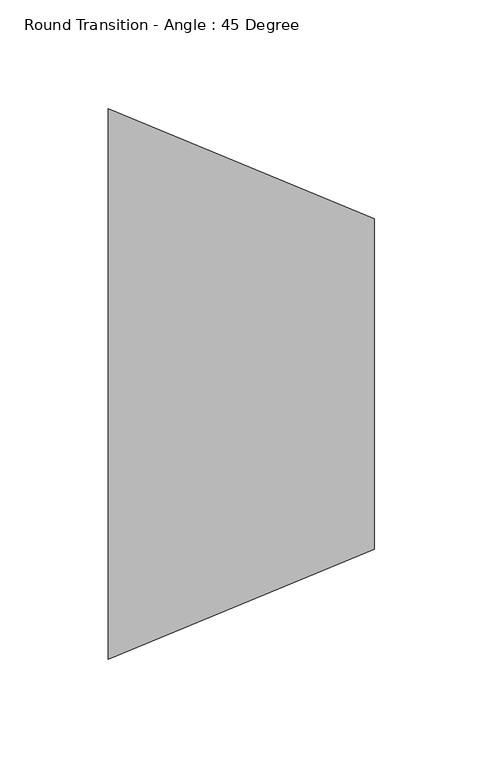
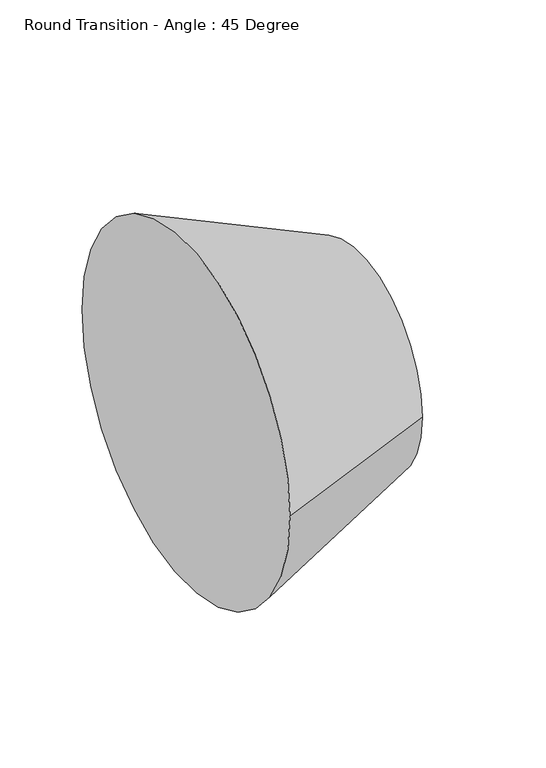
"""IFC4 building model written with IfcOpenShell, lengths in millimetres: duct fitting geometry, Round Transition - Angle : 45 Degree."""

from ifc_helpers import new_model, si_unit, frame, origin, place, context, project, spatial, polyline, circle_curve, source, transform, mapped, element, save
from ifc_brep_helpers import plane_surface, revolved_surface, advanced_brep


def round_transition_angle_45_degree_b52f7b1d(model_context):
    return source(origin(), model_context, "Body", "AdvancedBrep", [
        advanced_brep(
        [(122.642049, -76.2, 0.0), (122.642049, 76.2, 0.0), (0.0, -127.0, 0.0), (0.0, 127.0, 0.0)],
        [
            (0, 1, circle_curve(frame((122.642049, 0.0, 0.0), z_axis=(1.0, 0.0, 0.0), x_axis=(0.0, -1.0, 0.0)), 76.2)),
            (1, 0, circle_curve(frame((122.642049, 0.0, 0.0), z_axis=(1.0, 0.0, 0.0), x_axis=(0.0, 1.0, 0.0)), 76.2)),
            (2, 3, circle_curve(frame((0.0, 0.0, 0.0), z_axis=(-1.0, 0.0, 0.0), x_axis=(0.0, 1.0, 0.0)), 127.0)),
            (3, 2, circle_curve(frame((0.0, 0.0, 0.0), z_axis=(-1.0, 0.0, 0.0), x_axis=(0.0, -1.0, 0.0)), 127.0)),
            (3, 1),
            (0, 2),
        ],
        [
            plane_surface(frame((122.642049, 0.0, 0.0), z_axis=(1.0, 0.0, 0.0), x_axis=(0.0, 0.0, -1.0))),
            plane_surface(frame((0.0, 0.0, 0.0), z_axis=(-1.0, 0.0, 0.0), x_axis=(0.0, 0.0, -1.0))),
            revolved_surface(polyline([(122.64204899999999, -76.19999998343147, 0.0), (0.0, -127.0, 0.0)]), (306.6051224, 0.0, 0.0), (-1.0, 0.0, 0.0)),
            revolved_surface(polyline([(122.64204899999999, 76.19999998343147, 0.0), (0.0, 127.0, 0.0)]), (306.6051224, 0.0, 0.0), (-1.0, 0.0, 0.0)),
        ],
        [
            (0, [[1, 2]]),
            (1, [[3, 4]]),
            (2, [[-4, 5, -1, 6]]),
            (3, [[-3, -6, -2, -5]]),
        ],
    ),
    ])


if __name__ == "__main__":
    model = new_model("IFC4")
    model_context = context("Model", 3, world=origin())
    ifc_project = project(units=[si_unit("LENGTHUNIT", "METRE", prefix="MILLI")], contexts=[model_context])
    site = spatial("IfcSite", under=ifc_project)
    building = spatial("IfcBuilding", under=site)
    placement = place(None, origin())
    round_transition_angle_45_degree_shape = round_transition_angle_45_degree_b52f7b1d(model_context)
    element("IfcDuctFitting", 1, ObjectType="Round Transition - Angle : 45 Degree", at=placement, inside=building, context=model_context, shape_type="MappedRepresentation", body=[
        mapped(round_transition_angle_45_degree_shape, transform((0.0, 0.0, 0.0), x_axis=(1.0, 0.0, 0.0), y_axis=(0.0, 1.0, 0.0), z_axis=(0.0, 0.0, 1.0))),
    ])
    save(model, "model.ifc")
